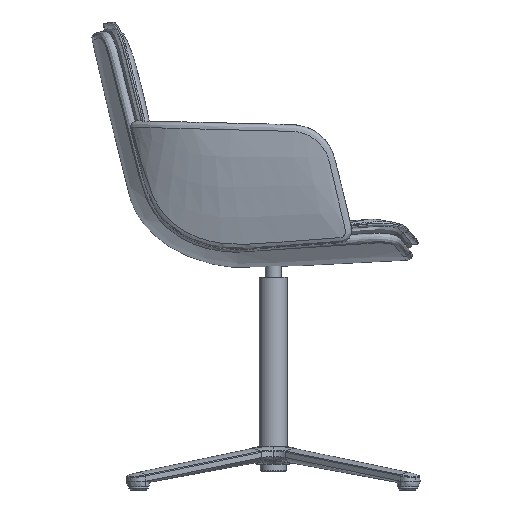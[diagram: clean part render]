
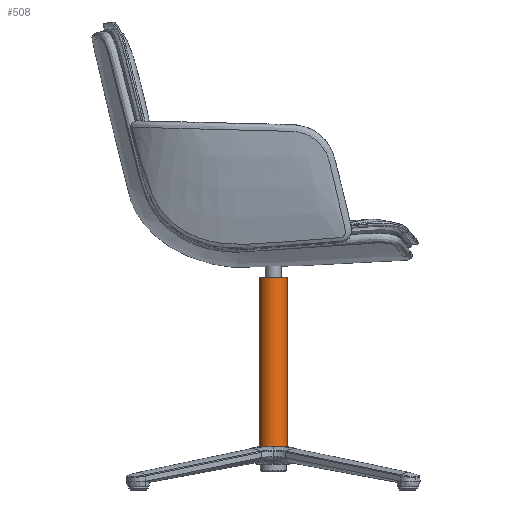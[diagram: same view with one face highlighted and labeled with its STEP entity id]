
A CAD part, left-side view. The second image highlights one B-rep face of the part: STEP entity #508.
In plain terms, the highlighted free-form (B-spline) face has degree [2, 1] with [9, 2] control points.
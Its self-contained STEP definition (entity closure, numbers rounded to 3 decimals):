
#208=(
BOUNDED_CURVE()
B_SPLINE_CURVE(2,(#16328,#16329,#16330,#16331,#16332,#16333,#16334,#16335,
#16336),.UNSPECIFIED.,.T.,.F.)
B_SPLINE_CURVE_WITH_KNOTS((3,2,2,2,3),(0.,39.27,78.54,
117.81,157.08),.UNSPECIFIED.)
CURVE()
GEOMETRIC_REPRESENTATION_ITEM()
RATIONAL_B_SPLINE_CURVE((1.,0.707,1.,0.707,1.,0.707,
1.,0.707,1.))
REPRESENTATION_ITEM('')
);
#212=(
BOUNDED_CURVE()
B_SPLINE_CURVE(2,(#16361,#16362,#16363,#16364,#16365,#16366,#16367,#16368,
#16369),.UNSPECIFIED.,.T.,.F.)
B_SPLINE_CURVE_WITH_KNOTS((3,2,2,2,3),(0.,39.27,78.54,
117.81,157.08),.UNSPECIFIED.)
CURVE()
GEOMETRIC_REPRESENTATION_ITEM()
RATIONAL_B_SPLINE_CURVE((1.,0.707,1.,0.707,1.,0.707,
1.,0.707,1.))
REPRESENTATION_ITEM('')
);
#308=(
BOUNDED_SURFACE()
B_SPLINE_SURFACE(2,1,((#16306,#16307),(#16308,#16309),(#16310,#16311),(#16312,
#16313),(#16314,#16315),(#16316,#16317),(#16318,#16319),(#16320,#16321),
(#16322,#16323)),.UNSPECIFIED.,.T.,.F.,.F.)
B_SPLINE_SURFACE_WITH_KNOTS((3,2,2,2,3),(2,2),(0.,39.27,78.54,
117.81,157.08),(0.,290.),.UNSPECIFIED.)
GEOMETRIC_REPRESENTATION_ITEM()
RATIONAL_B_SPLINE_SURFACE(((1.,1.),(0.707,0.707),
(1.,1.),(0.707,0.707),(1.,1.),(0.707,
0.707),(1.,1.),(0.707,0.707),(1.,1.)))
REPRESENTATION_ITEM('')
SURFACE()
);
#508=ADVANCED_FACE('',(#674),#308,.T.);
#674=FACE_OUTER_BOUND('',#840,.T.);
#840=EDGE_LOOP('',(#1524,#1525,#1526,#1527));
#1524=ORIENTED_EDGE('',*,*,#1904,.T.);
#1525=ORIENTED_EDGE('',*,*,#1909,.T.);
#1526=ORIENTED_EDGE('',*,*,#1910,.F.);
#1527=ORIENTED_EDGE('',*,*,#1909,.F.);
#1904=EDGE_CURVE('',#2331,#2331,#208,.T.);
#1909=EDGE_CURVE('',#2331,#2330,#2123,.T.);
#1910=EDGE_CURVE('',#2330,#2330,#212,.T.);
#2123=B_SPLINE_CURVE_WITH_KNOTS('',1,(#16359,#16360),.UNSPECIFIED.,.F.,
 .F.,(2,2),(0.,290.),.UNSPECIFIED.);
#2330=VERTEX_POINT('',#16324);
#2331=VERTEX_POINT('',#16325);
#16306=CARTESIAN_POINT('',(0.,25.,77.701));
#16307=CARTESIAN_POINT('',(0.,25.,380.));
#16308=CARTESIAN_POINT('',(-25.,25.,77.701));
#16309=CARTESIAN_POINT('',(-25.,25.,380.));
#16310=CARTESIAN_POINT('',(-25.,0.,77.701));
#16311=CARTESIAN_POINT('',(-25.,0.,380.));
#16312=CARTESIAN_POINT('',(-25.,-25.,77.701));
#16313=CARTESIAN_POINT('',(-25.,-25.,380.));
#16314=CARTESIAN_POINT('',(0.,-25.,77.701));
#16315=CARTESIAN_POINT('',(0.,-25.,380.));
#16316=CARTESIAN_POINT('',(25.,-25.,77.701));
#16317=CARTESIAN_POINT('',(25.,-25.,380.));
#16318=CARTESIAN_POINT('',(25.,0.,77.701));
#16319=CARTESIAN_POINT('',(25.,0.,380.));
#16320=CARTESIAN_POINT('',(25.,25.,77.701));
#16321=CARTESIAN_POINT('',(25.,25.,380.));
#16322=CARTESIAN_POINT('',(0.,25.,77.701));
#16323=CARTESIAN_POINT('',(0.,25.,380.));
#16324=CARTESIAN_POINT('',(0.,25.,380.));
#16325=CARTESIAN_POINT('',(0.,25.,77.701));
#16328=CARTESIAN_POINT('',(0.,25.,77.701));
#16329=CARTESIAN_POINT('',(-25.,25.,77.701));
#16330=CARTESIAN_POINT('',(-25.,0.,77.701));
#16331=CARTESIAN_POINT('',(-25.,-25.,77.701));
#16332=CARTESIAN_POINT('',(0.,-25.,77.701));
#16333=CARTESIAN_POINT('',(25.,-25.,77.701));
#16334=CARTESIAN_POINT('',(25.,0.,77.701));
#16335=CARTESIAN_POINT('',(25.,25.,77.701));
#16336=CARTESIAN_POINT('',(0.,25.,77.701));
#16359=CARTESIAN_POINT('',(0.,25.,77.701));
#16360=CARTESIAN_POINT('',(0.,25.,380.));
#16361=CARTESIAN_POINT('',(0.,25.,380.));
#16362=CARTESIAN_POINT('',(-25.,25.,380.));
#16363=CARTESIAN_POINT('',(-25.,0.,380.));
#16364=CARTESIAN_POINT('',(-25.,-25.,380.));
#16365=CARTESIAN_POINT('',(0.,-25.,380.));
#16366=CARTESIAN_POINT('',(25.,-25.,380.));
#16367=CARTESIAN_POINT('',(25.,0.,380.));
#16368=CARTESIAN_POINT('',(25.,25.,380.));
#16369=CARTESIAN_POINT('',(0.,25.,380.));
